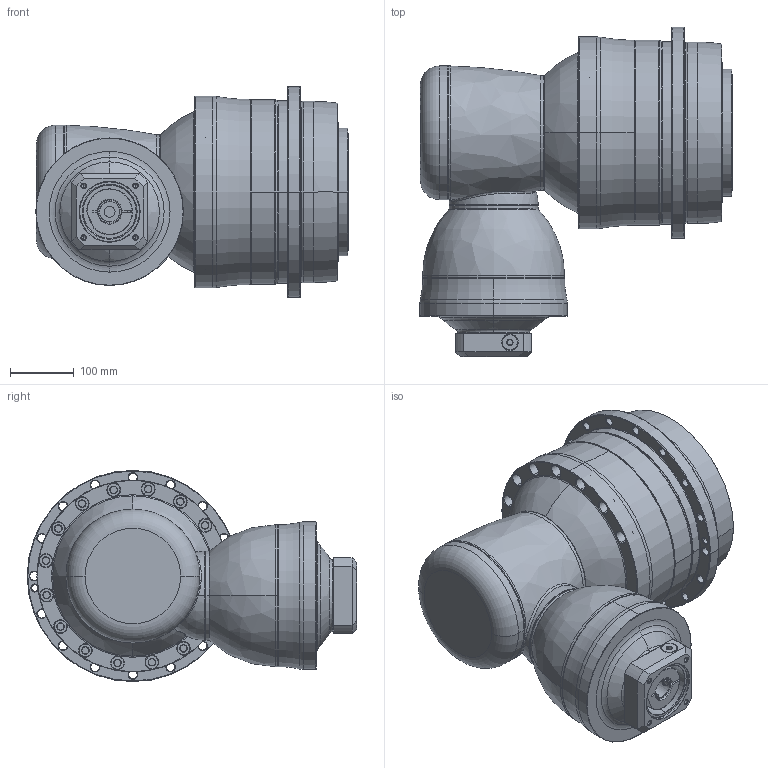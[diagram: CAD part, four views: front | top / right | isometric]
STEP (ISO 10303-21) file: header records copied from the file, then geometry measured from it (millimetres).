
FILE_DESCRIPTION((''),'2;1');
FILE_NAME('AHK285_4ST_32-P0409700101_ASM','2016-08-23T',('d01943'),(''),'PRO/ENGINEER BY PARAMETRIC TECHNOLOGY CORPORATION, 2008410','PRO/ENGINEER BY PARAMETRIC TECHNOLOGY CORPORATION, 2008410','');
FILE_SCHEMA(('CONFIG_CONTROL_DESIGN'));
Length unit declared in the file: millimetre
Products named in the file (12): P1008600002; P1832800001; P0278800003; P0359800003; P1315600001; P1007600001; P1317600201; P0409700101; P0503700010; P0912502201; 21711418017; AHK285_4ST_32-P0409700101_ASM
Assembly tree (11 placements, depth 2):
  AHK285_4ST_32-P0409700101_ASM
    P1008600002
    P1832800001
    P0278800003
    P0359800003
    P1315600001
    P1007600001
    P1317600201
    P0409700101
    P0503700010
    P0912502201
    21711418017
Bounding box: 491 x 518 x 332 mm (x, y, z)
Volume: 23270008.6 mm3; surface area: 1608897 mm2
Topology: 12 solids, 12 shells, 1063 faces, 2395 edges, 1381 vertices
Faces by surface type: cone 382, cylinder 370, plane 142, torus 128, bspline 39, sphere 2
Entity records: 36202 total; most frequent: CARTESIAN_POINT 11879, DIRECTION 5594, ORIENTED_EDGE 4646, AXIS2_PLACEMENT_3D 2385, EDGE_CURVE 2323, VERTEX_POINT 1381, CIRCLE 1338, EDGE_LOOP 1258
